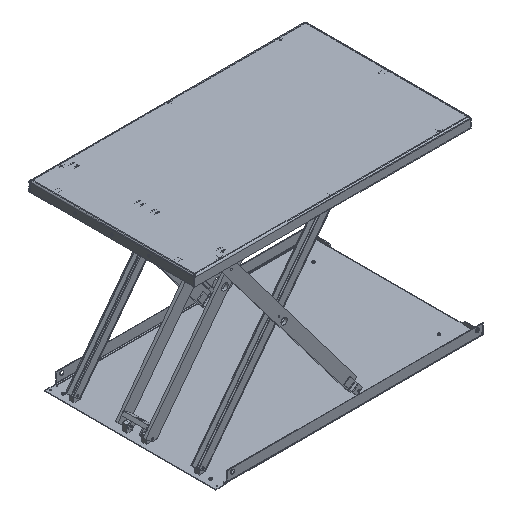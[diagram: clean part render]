
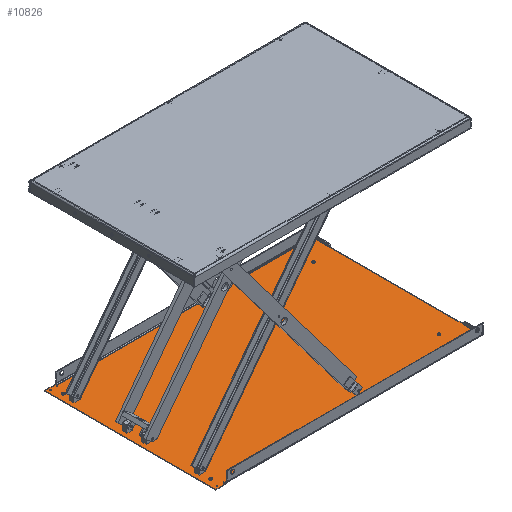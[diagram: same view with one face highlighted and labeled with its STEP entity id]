
A CAD part, isometric view. The second image highlights one B-rep face of the part: STEP entity #10826.
In plain terms, the highlighted planar face has unit normal (0, 0, 1).
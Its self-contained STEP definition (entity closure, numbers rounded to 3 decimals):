
#416=PLANE('',#11658);
#742=LINE('',#16099,#1742);
#745=LINE('',#16107,#1745);
#747=LINE('',#16111,#1747);
#751=LINE('',#16117,#1751);
#752=LINE('',#16120,#1752);
#753=LINE('',#16122,#1753);
#754=LINE('',#16124,#1754);
#755=LINE('',#16126,#1755);
#756=LINE('',#16128,#1756);
#757=LINE('',#16130,#1757);
#758=LINE('',#16132,#1758);
#759=LINE('',#16133,#1759);
#1742=VECTOR('',#12853,10.);
#1745=VECTOR('',#12858,10.);
#1747=VECTOR('',#12862,10.);
#1751=VECTOR('',#12868,10.);
#1752=VECTOR('',#12871,10.);
#1753=VECTOR('',#12872,10.);
#1754=VECTOR('',#12873,10.);
#1755=VECTOR('',#12874,10.);
#1756=VECTOR('',#12875,10.);
#1757=VECTOR('',#12876,10.);
#1758=VECTOR('',#12877,10.);
#1759=VECTOR('',#12878,10.);
#2743=FACE_BOUND('',#3558,.T.);
#2744=FACE_BOUND('',#3559,.T.);
#2745=FACE_BOUND('',#3560,.T.);
#2746=FACE_BOUND('',#3561,.T.);
#2747=FACE_BOUND('',#3562,.T.);
#2748=FACE_BOUND('',#3563,.T.);
#2749=FACE_BOUND('',#3564,.T.);
#2750=FACE_BOUND('',#3565,.T.);
#2935=FACE_OUTER_BOUND('',#3557,.T.);
#3557=EDGE_LOOP('',(#7486,#7487,#7488,#7489,#7490,#7491,#7492,#7493,#7494,
#7495,#7496,#7497));
#3558=EDGE_LOOP('',(#7498));
#3559=EDGE_LOOP('',(#7499));
#3560=EDGE_LOOP('',(#7500));
#3561=EDGE_LOOP('',(#7501));
#3562=EDGE_LOOP('',(#7502));
#3563=EDGE_LOOP('',(#7503));
#3564=EDGE_LOOP('',(#7504));
#3565=EDGE_LOOP('',(#7505));
#4307=CIRCLE('',#11607,2.35);
#4309=CIRCLE('',#11610,2.35);
#4311=CIRCLE('',#11613,2.35);
#4313=CIRCLE('',#11616,2.35);
#4323=CIRCLE('',#11631,7.);
#4325=CIRCLE('',#11634,7.);
#4327=CIRCLE('',#11637,7.);
#4329=CIRCLE('',#11640,7.);
#4780=VERTEX_POINT('',#16000);
#4782=VERTEX_POINT('',#16005);
#4784=VERTEX_POINT('',#16010);
#4786=VERTEX_POINT('',#16015);
#4796=VERTEX_POINT('',#16040);
#4798=VERTEX_POINT('',#16045);
#4800=VERTEX_POINT('',#16050);
#4802=VERTEX_POINT('',#16055);
#4813=VERTEX_POINT('',#16084);
#4814=VERTEX_POINT('',#16088);
#4818=VERTEX_POINT('',#16104);
#4819=VERTEX_POINT('',#16106);
#4820=VERTEX_POINT('',#16110);
#4822=VERTEX_POINT('',#16119);
#4823=VERTEX_POINT('',#16121);
#4824=VERTEX_POINT('',#16123);
#4825=VERTEX_POINT('',#16125);
#4826=VERTEX_POINT('',#16127);
#4827=VERTEX_POINT('',#16129);
#4828=VERTEX_POINT('',#16131);
#5837=EDGE_CURVE('',#4780,#4780,#4307,.T.);
#5839=EDGE_CURVE('',#4782,#4782,#4309,.T.);
#5841=EDGE_CURVE('',#4784,#4784,#4311,.T.);
#5843=EDGE_CURVE('',#4786,#4786,#4313,.T.);
#5853=EDGE_CURVE('',#4796,#4796,#4323,.T.);
#5855=EDGE_CURVE('',#4798,#4798,#4325,.T.);
#5857=EDGE_CURVE('',#4800,#4800,#4327,.T.);
#5859=EDGE_CURVE('',#4802,#4802,#4329,.T.);
#5880=EDGE_CURVE('',#4813,#4814,#742,.T.);
#5883=EDGE_CURVE('',#4819,#4818,#745,.T.);
#5885=EDGE_CURVE('',#4820,#4813,#747,.T.);
#5889=EDGE_CURVE('',#4818,#4820,#751,.T.);
#5890=EDGE_CURVE('',#4822,#4814,#752,.T.);
#5891=EDGE_CURVE('',#4822,#4823,#753,.T.);
#5892=EDGE_CURVE('',#4823,#4824,#754,.T.);
#5893=EDGE_CURVE('',#4824,#4825,#755,.T.);
#5894=EDGE_CURVE('',#4825,#4826,#756,.T.);
#5895=EDGE_CURVE('',#4827,#4826,#757,.T.);
#5896=EDGE_CURVE('',#4828,#4827,#758,.T.);
#5897=EDGE_CURVE('',#4819,#4828,#759,.T.);
#7486=ORIENTED_EDGE('',*,*,#5883,.T.);
#7487=ORIENTED_EDGE('',*,*,#5889,.T.);
#7488=ORIENTED_EDGE('',*,*,#5885,.T.);
#7489=ORIENTED_EDGE('',*,*,#5880,.T.);
#7490=ORIENTED_EDGE('',*,*,#5890,.F.);
#7491=ORIENTED_EDGE('',*,*,#5891,.T.);
#7492=ORIENTED_EDGE('',*,*,#5892,.T.);
#7493=ORIENTED_EDGE('',*,*,#5893,.T.);
#7494=ORIENTED_EDGE('',*,*,#5894,.T.);
#7495=ORIENTED_EDGE('',*,*,#5895,.F.);
#7496=ORIENTED_EDGE('',*,*,#5896,.F.);
#7497=ORIENTED_EDGE('',*,*,#5897,.F.);
#7498=ORIENTED_EDGE('',*,*,#5837,.T.);
#7499=ORIENTED_EDGE('',*,*,#5839,.T.);
#7500=ORIENTED_EDGE('',*,*,#5841,.T.);
#7501=ORIENTED_EDGE('',*,*,#5843,.T.);
#7502=ORIENTED_EDGE('',*,*,#5853,.T.);
#7503=ORIENTED_EDGE('',*,*,#5855,.T.);
#7504=ORIENTED_EDGE('',*,*,#5857,.T.);
#7505=ORIENTED_EDGE('',*,*,#5859,.T.);
#10826=ADVANCED_FACE('',(#2935,#2743,#2744,#2745,#2746,#2747,#2748,#2749,
#2750),#416,.T.);
#11607=AXIS2_PLACEMENT_3D('',#16001,#12742,#12743);
#11610=AXIS2_PLACEMENT_3D('',#16006,#12748,#12749);
#11613=AXIS2_PLACEMENT_3D('',#16011,#12754,#12755);
#11616=AXIS2_PLACEMENT_3D('',#16016,#12760,#12761);
#11631=AXIS2_PLACEMENT_3D('',#16041,#12790,#12791);
#11634=AXIS2_PLACEMENT_3D('',#16046,#12796,#12797);
#11637=AXIS2_PLACEMENT_3D('',#16051,#12802,#12803);
#11640=AXIS2_PLACEMENT_3D('',#16056,#12808,#12809);
#11658=AXIS2_PLACEMENT_3D('',#16118,#12869,#12870);
#12742=DIRECTION('center_axis',(0.,0.,-1.));
#12743=DIRECTION('ref_axis',(1.,0.,0.));
#12748=DIRECTION('center_axis',(0.,0.,-1.));
#12749=DIRECTION('ref_axis',(1.,0.,0.));
#12754=DIRECTION('center_axis',(0.,0.,-1.));
#12755=DIRECTION('ref_axis',(1.,0.,0.));
#12760=DIRECTION('center_axis',(0.,0.,-1.));
#12761=DIRECTION('ref_axis',(1.,0.,0.));
#12790=DIRECTION('center_axis',(0.,0.,-1.));
#12791=DIRECTION('ref_axis',(1.,0.,0.));
#12796=DIRECTION('center_axis',(0.,0.,-1.));
#12797=DIRECTION('ref_axis',(1.,0.,0.));
#12802=DIRECTION('center_axis',(0.,0.,-1.));
#12803=DIRECTION('ref_axis',(1.,0.,0.));
#12808=DIRECTION('center_axis',(0.,0.,-1.));
#12809=DIRECTION('ref_axis',(1.,0.,0.));
#12853=DIRECTION('',(1.,0.,0.));
#12858=DIRECTION('',(0.,1.,0.));
#12862=DIRECTION('',(0.,-1.,0.));
#12868=DIRECTION('',(1.,0.,0.));
#12869=DIRECTION('center_axis',(0.,0.,1.));
#12870=DIRECTION('ref_axis',(1.,0.,0.));
#12871=DIRECTION('',(0.,-1.,0.));
#12872=DIRECTION('',(-1.,0.,0.));
#12873=DIRECTION('',(0.,-1.,0.));
#12874=DIRECTION('',(-1.,0.,0.));
#12875=DIRECTION('',(0.,1.,0.));
#12876=DIRECTION('',(1.,0.,0.));
#12877=DIRECTION('',(0.,1.,0.));
#12878=DIRECTION('',(-1.,0.,0.));
#16000=CARTESIAN_POINT('',(-702.65,-453.,3.));
#16001=CARTESIAN_POINT('Origin',(-705.,-453.,3.));
#16005=CARTESIAN_POINT('',(-668.65,-453.,3.));
#16006=CARTESIAN_POINT('Origin',(-671.,-453.,3.));
#16010=CARTESIAN_POINT('',(-668.65,453.,3.));
#16011=CARTESIAN_POINT('Origin',(-671.,453.,3.));
#16015=CARTESIAN_POINT('',(-702.65,453.,3.));
#16016=CARTESIAN_POINT('Origin',(-705.,453.,3.));
#16040=CARTESIAN_POINT('',(617.,-340.,3.));
#16041=CARTESIAN_POINT('Origin',(610.,-340.,3.));
#16045=CARTESIAN_POINT('',(617.,340.,3.));
#16046=CARTESIAN_POINT('Origin',(610.,340.,3.));
#16050=CARTESIAN_POINT('',(-681.,-400.,3.));
#16051=CARTESIAN_POINT('Origin',(-688.,-400.,3.));
#16055=CARTESIAN_POINT('',(-681.,400.,3.));
#16056=CARTESIAN_POINT('Origin',(-688.,400.,3.));
#16084=CARTESIAN_POINT('',(-663.,-459.,3.));
#16088=CARTESIAN_POINT('',(725.,-459.,3.));
#16099=CARTESIAN_POINT('',(362.5,-459.,3.));
#16104=CARTESIAN_POINT('',(-666.,-457.5,3.));
#16106=CARTESIAN_POINT('',(-666.,-465.,3.));
#16107=CARTESIAN_POINT('',(-666.,-228.75,3.));
#16110=CARTESIAN_POINT('',(-663.,-457.5,3.));
#16111=CARTESIAN_POINT('',(-663.,-232.5,3.));
#16117=CARTESIAN_POINT('',(-331.5,-457.5,3.));
#16118=CARTESIAN_POINT('Origin',(0.,0.,3.));
#16119=CARTESIAN_POINT('',(725.,459.,3.));
#16120=CARTESIAN_POINT('',(725.,465.,3.));
#16121=CARTESIAN_POINT('',(-663.,459.,3.));
#16122=CARTESIAN_POINT('',(-331.5,459.,3.));
#16123=CARTESIAN_POINT('',(-663.,457.5,3.));
#16124=CARTESIAN_POINT('',(-663.,228.75,3.));
#16125=CARTESIAN_POINT('',(-666.,457.5,3.));
#16126=CARTESIAN_POINT('',(-333.,457.5,3.));
#16127=CARTESIAN_POINT('',(-666.,465.,3.));
#16128=CARTESIAN_POINT('',(-666.,232.5,3.));
#16129=CARTESIAN_POINT('',(-725.,465.,3.));
#16130=CARTESIAN_POINT('',(-725.,465.,3.));
#16131=CARTESIAN_POINT('',(-725.,-465.,3.));
#16132=CARTESIAN_POINT('',(-725.,-465.,3.));
#16133=CARTESIAN_POINT('',(725.,-465.,3.));
